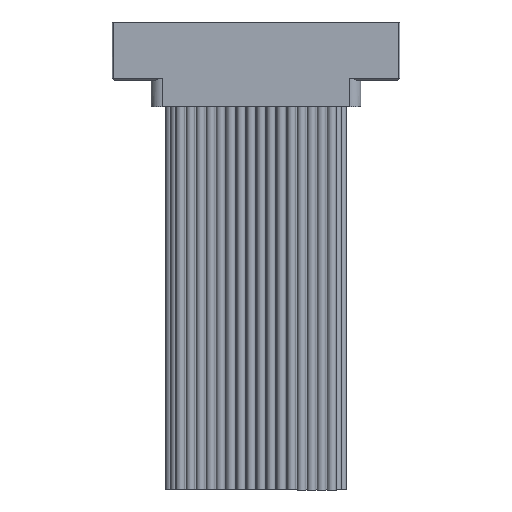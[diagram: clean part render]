
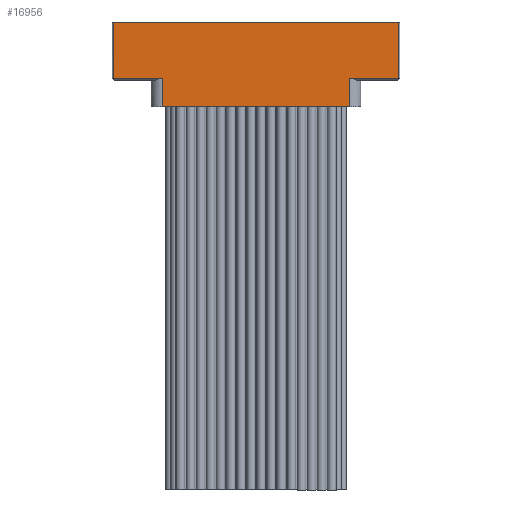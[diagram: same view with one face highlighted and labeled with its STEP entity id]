
A CAD part, front view. The second image highlights one B-rep face of the part: STEP entity #16956.
In plain terms, the highlighted planar face has unit normal (0, -1, 0).
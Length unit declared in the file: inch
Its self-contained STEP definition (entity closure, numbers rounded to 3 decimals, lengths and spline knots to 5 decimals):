
#179 = CARTESIAN_POINT ( 'NONE',  ( -0.7075, -0.17165, -0.043 ) ) ;
#651 = ORIENTED_EDGE ( 'NONE', *, *, #68364, .T. ) ;
#1285 = ORIENTED_EDGE ( 'NONE', *, *, #71901, .T. ) ;
#2242 = DIRECTION ( 'NONE',  ( 1., 0., 0. ) ) ;
#3997 = DIRECTION ( 'NONE',  ( 0., 0., 1. ) ) ;
#5177 = ORIENTED_EDGE ( 'NONE', *, *, #42726, .T. ) ;
#6512 = DIRECTION ( 'NONE',  ( 1., 0., 0. ) ) ;
#7755 = CARTESIAN_POINT ( 'NONE',  ( -0.7075, -0.17165, -0.053 ) ) ;
#8202 = CARTESIAN_POINT ( 'NONE',  ( 0.7125, -0.17165, -0.043 ) ) ;
#8880 = CARTESIAN_POINT ( 'NONE',  ( 0.7075, -0.17165, 0.235 ) ) ;
#10366 = CARTESIAN_POINT ( 'NONE',  ( -0.464, -0.17165, -1.6854 ) ) ;
#11568 = VERTEX_POINT ( 'NONE', #76514 ) ;
#13208 = DIRECTION ( 'NONE',  ( 0., 0., -1. ) ) ;
#15258 = EDGE_CURVE ( 'NONE', #25435, #11568, #57756, .T. ) ;
#16361 = DIRECTION ( 'NONE',  ( 0., -1., 0. ) ) ;
#16956 = ADVANCED_FACE ( 'NONE', ( #58049 ), #64408, .T. ) ;
#17186 = VERTEX_POINT ( 'NONE', #22559 ) ;
#18294 = ORIENTED_EDGE ( 'NONE', *, *, #50840, .T. ) ;
#19645 = ORIENTED_EDGE ( 'NONE', *, *, #15258, .T. ) ;
#19723 = VECTOR ( 'NONE', #56871, 39.37008 ) ;
#20721 = EDGE_CURVE ( 'NONE', #67043, #25435, #25969, .T. ) ;
#21215 = LINE ( 'NONE', #7755, #81945 ) ;
#22346 = CARTESIAN_POINT ( 'NONE',  ( 0.7125, -0.17165, 0.235 ) ) ;
#22559 = CARTESIAN_POINT ( 'NONE',  ( 0.7075, -0.17165, -0.043 ) ) ;
#23781 = LINE ( 'NONE', #37408, #19723 ) ;
#25435 = VERTEX_POINT ( 'NONE', #30070 ) ;
#25969 = LINE ( 'NONE', #70916, #68636 ) ;
#26934 = VERTEX_POINT ( 'NONE', #179 ) ;
#29320 = LINE ( 'NONE', #8202, #69379 ) ;
#29370 = CARTESIAN_POINT ( 'NONE',  ( 0.7075, -0.17165, 0.235 ) ) ;
#30070 = CARTESIAN_POINT ( 'NONE',  ( 0.464, -0.17165, -0.184 ) ) ;
#30116 = ORIENTED_EDGE ( 'NONE', *, *, #76670, .F. ) ;
#30380 = CARTESIAN_POINT ( 'NONE',  ( -0.464, -0.17165, -0.184 ) ) ;
#30655 = VERTEX_POINT ( 'NONE', #8880 ) ;
#31309 = VECTOR ( 'NONE', #44979, 39.37008 ) ;
#31531 = DIRECTION ( 'NONE',  ( 1., 0., 0. ) ) ;
#31939 = VERTEX_POINT ( 'NONE', #58006 ) ;
#36155 = DIRECTION ( 'NONE',  ( 0., 0., 1. ) ) ;
#37242 = AXIS2_PLACEMENT_3D ( 'NONE', #22346, #16361, #42291 ) ;
#37408 = CARTESIAN_POINT ( 'NONE',  ( 0.7125, -0.17165, 0.235 ) ) ;
#41566 = VERTEX_POINT ( 'NONE', #65076 ) ;
#42291 = DIRECTION ( 'NONE',  ( 0., 0., 1. ) ) ;
#42464 = EDGE_LOOP ( 'NONE', ( #19645, #5177, #61902, #18294, #1285, #651, #30116, #70389 ) ) ;
#42726 = EDGE_CURVE ( 'NONE', #11568, #17186, #29320, .T. ) ;
#44979 = DIRECTION ( 'NONE',  ( 0., 0., 1. ) ) ;
#50840 = EDGE_CURVE ( 'NONE', #30655, #31939, #23781, .T. ) ;
#54797 = LINE ( 'NONE', #29370, #64186 ) ;
#56871 = DIRECTION ( 'NONE',  ( -1., 0., 0. ) ) ;
#57756 = LINE ( 'NONE', #58606, #31309 ) ;
#58006 = CARTESIAN_POINT ( 'NONE',  ( -0.7075, -0.17165, 0.235 ) ) ;
#58049 = FACE_OUTER_BOUND ( 'NONE', #42464, .T. ) ;
#58606 = CARTESIAN_POINT ( 'NONE',  ( 0.464, -0.17165, -1.6854 ) ) ;
#61902 = ORIENTED_EDGE ( 'NONE', *, *, #71098, .T. ) ;
#63350 = LINE ( 'NONE', #10366, #70953 ) ;
#64156 = LINE ( 'NONE', #81899, #78556 ) ;
#64186 = VECTOR ( 'NONE', #36155, 39.37008 ) ;
#64408 = PLANE ( 'NONE',  #37242 ) ;
#65076 = CARTESIAN_POINT ( 'NONE',  ( -0.464, -0.17165, -0.043 ) ) ;
#67043 = VERTEX_POINT ( 'NONE', #30380 ) ;
#68364 = EDGE_CURVE ( 'NONE', #26934, #41566, #64156, .T. ) ;
#68636 = VECTOR ( 'NONE', #6512, 39.37008 ) ;
#69379 = VECTOR ( 'NONE', #2242, 39.37008 ) ;
#70389 = ORIENTED_EDGE ( 'NONE', *, *, #20721, .T. ) ;
#70916 = CARTESIAN_POINT ( 'NONE',  ( 0.464, -0.17165, -0.184 ) ) ;
#70953 = VECTOR ( 'NONE', #3997, 39.37008 ) ;
#71098 = EDGE_CURVE ( 'NONE', #17186, #30655, #54797, .T. ) ;
#71901 = EDGE_CURVE ( 'NONE', #31939, #26934, #21215, .T. ) ;
#76514 = CARTESIAN_POINT ( 'NONE',  ( 0.464, -0.17165, -0.043 ) ) ;
#76670 = EDGE_CURVE ( 'NONE', #67043, #41566, #63350, .T. ) ;
#78556 = VECTOR ( 'NONE', #31531, 39.37008 ) ;
#81899 = CARTESIAN_POINT ( 'NONE',  ( 0.7125, -0.17165, -0.043 ) ) ;
#81945 = VECTOR ( 'NONE', #13208, 39.37008 ) ;
